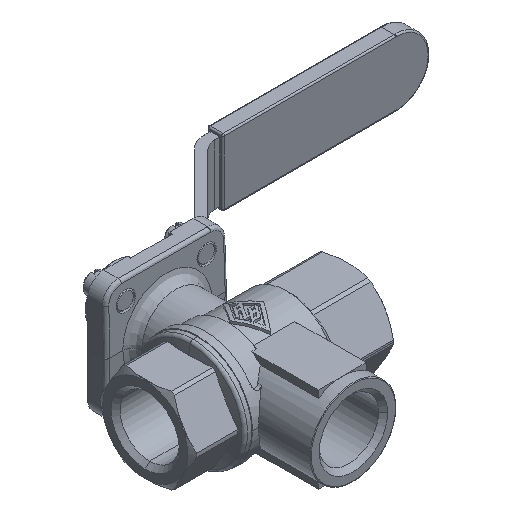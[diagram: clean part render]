
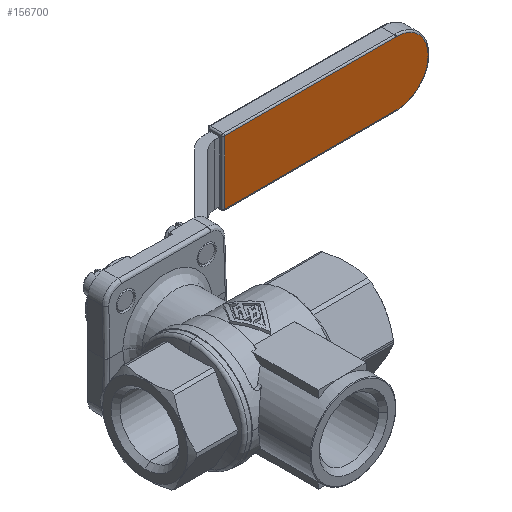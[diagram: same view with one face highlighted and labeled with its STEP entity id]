
A CAD part, isometric view. The second image highlights one B-rep face of the part: STEP entity #156700.
In plain terms, the highlighted planar face has unit normal (0, -1, 0).
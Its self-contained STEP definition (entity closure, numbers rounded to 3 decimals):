
#154710=CARTESIAN_POINT('',(-50.5,57.5,10.));
#154720=VERTEX_POINT('',#154710);
#154810=CARTESIAN_POINT('',(-50.5,57.5,-10.));
#154820=VERTEX_POINT('',#154810);
#154850=CARTESIAN_POINT('',(-50.5,57.5,0.));
#154860=DIRECTION('',(0.,0.,1.));
#154870=VECTOR('',#154860,1.);
#154880=LINE('',#154850,#154870);
#154890=EDGE_CURVE('',#154820,#154720,#154880,.T.);
#155920=CARTESIAN_POINT('',(-104.291,57.5,-10.));
#155930=VERTEX_POINT('',#155920);
#155960=CARTESIAN_POINT('',(0.,57.5,-10.))
;
#155970=DIRECTION('',(1.,0.,0.));
#155980=VECTOR('',#155970,1.);
#155990=LINE('',#155960,#155980);
#156000=EDGE_CURVE('',#155930,#154820,#155990,.T.);
#156290=CARTESIAN_POINT('',(-104.5,57.5,-10.002));
#156300=VERTEX_POINT('',#156290);
#156330=CARTESIAN_POINT('',(-104.5,57.5,0.
));
#156340=DIRECTION('',(0.,-1.,0.));
#156350=DIRECTION('',(0.,0.,-1.));
#156360=AXIS2_PLACEMENT_3D('',#156330,#156340,#156350);
#156370=CIRCLE('',#156360,10.002);
#156380=EDGE_CURVE('',#156300,#155930,#156370,.T.);
#156500=CARTESIAN_POINT('',(-114.,57.5,0.));
#156510=DIRECTION('',(0.,-1.,0.));
#156520=DIRECTION('',(1.,0.,0.));
#156530=AXIS2_PLACEMENT_3D('',#156500,#156510,#156520);
#156540=PLANE('',#156530);
#156550=ORIENTED_EDGE('',*,*,#156000,.T.);
#156560=ORIENTED_EDGE('',*,*,#156380,.T.);
#156570=CARTESIAN_POINT('',(-104.709,57.5,10.));
#156580=VERTEX_POINT('',#156570);
#156590=EDGE_CURVE('',#156580,#156300,#156370,.T.);
#156600=ORIENTED_EDGE('',*,*,#156590,.T.);
#156610=CARTESIAN_POINT('',(0.,57.5,10.));
#156620=DIRECTION('',(-1.,0.,0.));
#156630=VECTOR('',#156620,1.);
#156640=LINE('',#156610,#156630);
#156650=EDGE_CURVE('',#154720,#156580,#156640,.T.);
#156660=ORIENTED_EDGE('',*,*,#156650,.T.);
#156670=ORIENTED_EDGE('',*,*,#154890,.T.);
#156680=EDGE_LOOP('',(#156670,#156660,#156600,#156560,#156550));
#156690=FACE_OUTER_BOUND('',#156680,.T.);
#156700=ADVANCED_FACE('',(#156690),#156540,.T.);
